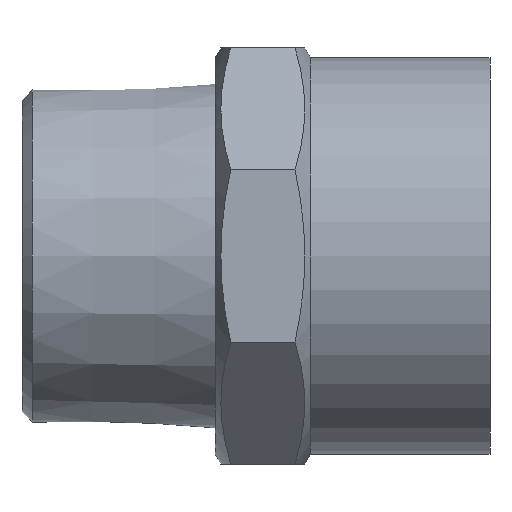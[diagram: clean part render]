
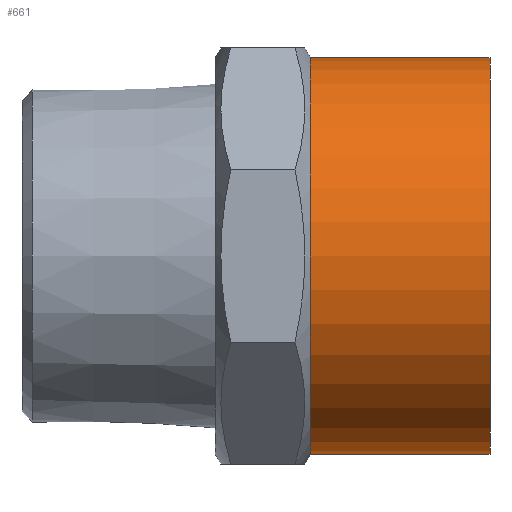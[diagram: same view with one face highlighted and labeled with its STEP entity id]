
A CAD part, front view. The second image highlights one B-rep face of the part: STEP entity #661.
In plain terms, the highlighted cylindrical face has radius 19.5 mm (diameter 39 mm), a full revolution.
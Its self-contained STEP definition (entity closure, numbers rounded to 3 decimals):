
#470=CARTESIAN_POINT('',(28.349,19.5,0.0));
#471=VERTEX_POINT('',#470);
#472=CARTESIAN_POINT('',(28.349,0.0,0.0));
#473=DIRECTION('',(1.0,0.0,0.0));
#474=DIRECTION('',(0.0,1.0,0.0));
#475=AXIS2_PLACEMENT_3D('',#472,#473,#474);
#476=CIRCLE('',#475,19.5);
#477=EDGE_CURVE('',#471,#471,#476,.T.);
#642=CARTESIAN_POINT('',(37.174,0.0,0.0));
#643=DIRECTION('',(1.0,0.0,0.0));
#644=DIRECTION('',(0.0,1.0,0.0));
#645=AXIS2_PLACEMENT_3D('',#642,#643,#644);
#646=CYLINDRICAL_SURFACE('',#645,19.5);
#647=CARTESIAN_POINT('',(46.,19.5,0.0));
#648=VERTEX_POINT('',#647);
#649=CARTESIAN_POINT('',(46.,0.0,0.0));
#650=DIRECTION('',(1.0,0.0,0.0));
#651=DIRECTION('',(0.0,1.0,0.0));
#652=AXIS2_PLACEMENT_3D('',#649,#650,#651);
#653=CIRCLE('',#652,19.5);
#654=EDGE_CURVE('',#648,#648,#653,.T.);
#655=ORIENTED_EDGE('',*,*,#654,.F.);
#656=EDGE_LOOP('',(#655));
#657=FACE_OUTER_BOUND('',#656,.T.);
#658=ORIENTED_EDGE('',*,*,#477,.T.);
#659=EDGE_LOOP('',(#658));
#660=FACE_BOUND('',#659,.T.);
#661=ADVANCED_FACE('',(#657,#660),#646,.T.);
